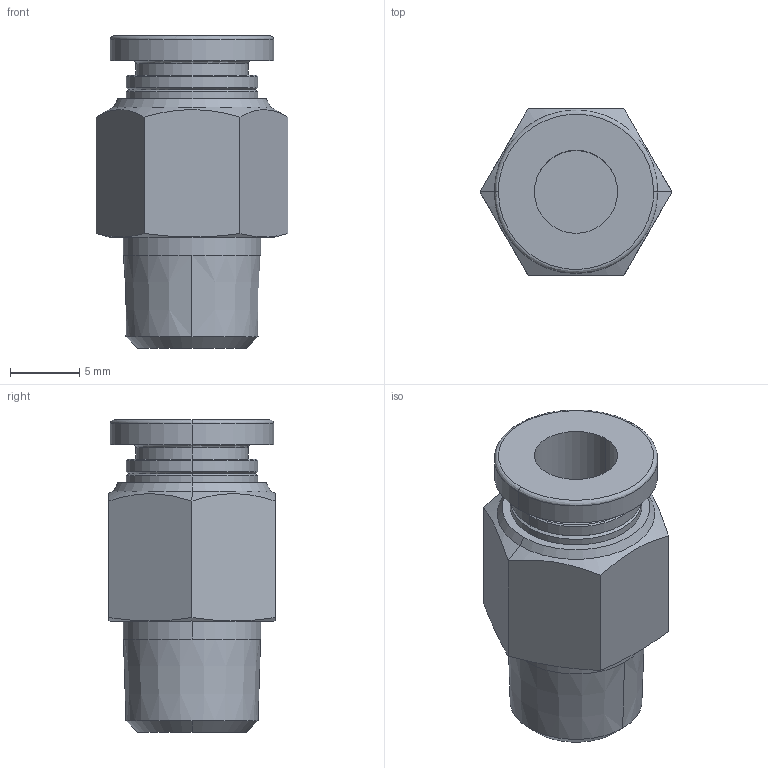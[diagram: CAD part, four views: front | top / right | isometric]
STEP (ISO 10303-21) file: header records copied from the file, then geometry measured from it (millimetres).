
FILE_DESCRIPTION (( 'STEP AP214' ), '1' );
FILE_NAME ('KQ2H06-01AS.STEP', '2023-03-06T10:19:22', ( 'Windows User' ), ( 'P R C' ), 'SwSTEP 2.0', 'SolidWorks 2019', '' );
FILE_SCHEMA (( 'AUTOMOTIVE_DESIGN' ));
Length unit declared in the file: millimetre
Products named in the file (1): KQ2H06-01AS
Bounding box: 13.86 x 12 x 22.55 mm (x, y, z)
Volume: 1699 mm3; surface area: 1436.5 mm2
Topology: 1 solids, 1 shells, 49 faces, 108 edges, 66 vertices
Faces by surface type: cone 20, plane 13, cylinder 12, bspline 4
Entity records: 1748 total; most frequent: CARTESIAN_POINT 634, DIRECTION 238, ORIENTED_EDGE 216, EDGE_CURVE 108, AXIS2_PLACEMENT_3D 100, VERTEX_POINT 66, CIRCLE 54, EDGE_LOOP 54
